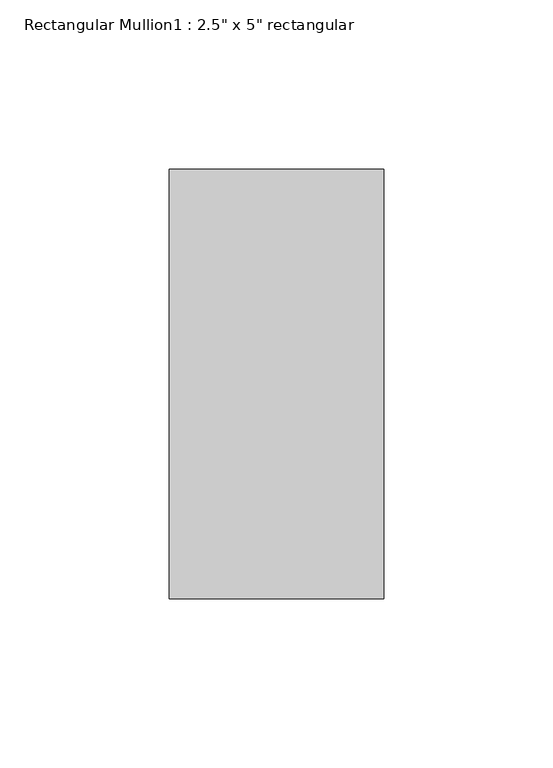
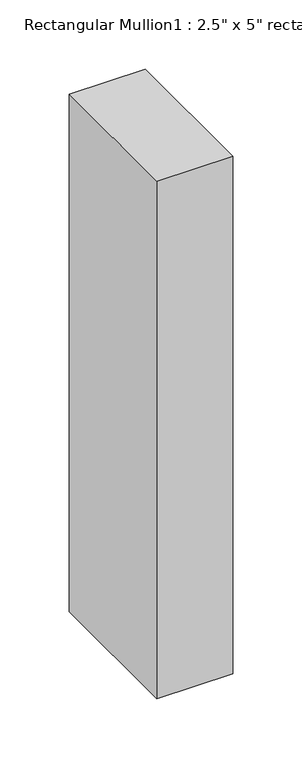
"""IFC4 building model written with IfcOpenShell, lengths in millimetres: member geometry."""

from ifc_helpers import new_model, si_unit, frame, origin, place, context, project, spatial, polyline, outline, extrude, source, transform, mapped, element, save


def member_ffd4c858(model_context):
    return source(origin(), model_context, "Body", "SweptSolid", [
        extrude(outline(polyline([(31.75, 63.5), (31.75, -63.5), (-31.75, -63.5), (-31.75, 63.5), (31.75, 63.5)])), frame((0.0, 0.0, -457.2), z_axis=(0.0, 0.0, 1.0), x_axis=(1.0, 0.0, 0.0)), (0.0, 0.0, 1.0), 457.2),
    ])


if __name__ == "__main__":
    model = new_model("IFC4")
    model_context = context("Model", 3, world=origin())
    ifc_project = project(units=[si_unit("LENGTHUNIT", "METRE", prefix="MILLI")], contexts=[model_context])
    site = spatial("IfcSite", under=ifc_project)
    building = spatial("IfcBuilding", under=site)
    placement = place(None, origin())
    member_shape = member_ffd4c858(model_context)
    element("IfcMember", 1, ObjectType="Rectangular Mullion1 : 2.5\" x 5\" rectangular", at=placement, inside=building, context=model_context, shape_type="MappedRepresentation", body=[
        mapped(member_shape, transform((0.0, 0.0, 0.0), x_axis=(1.0, 0.0, 0.0), y_axis=(0.0, 1.0, 0.0), z_axis=(0.0, 0.0, 1.0))),
    ])
    save(model, "model.ifc")
